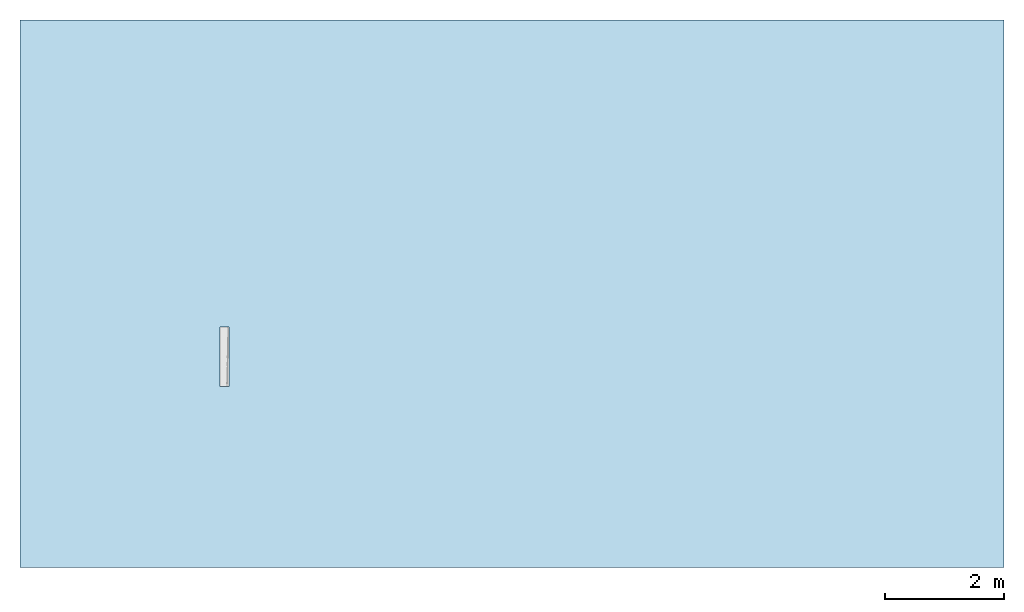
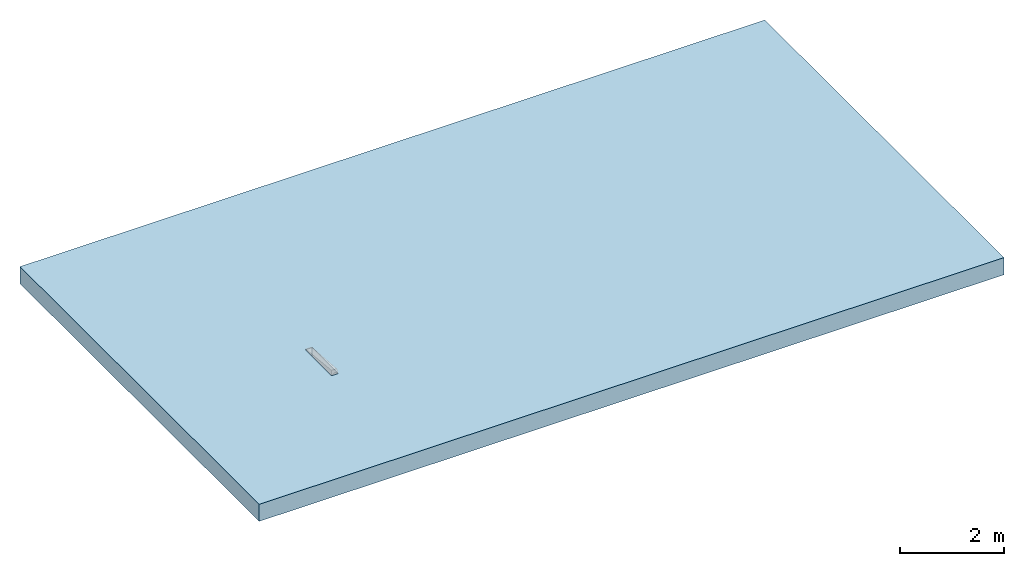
# One storey, part 1 of 2: 1 slab, 2 openings.
"""IFC2X3 building model written with IfcOpenShell, lengths in millimetres."""

import ifcopenshell
import ifcopenshell.guid

model = None  # the IFC model being written
_history = None  # IfcOwnerHistory: only IFC2X3 demands one
_inside = {}  # id of a spatial element -> (the spatial element, [elements in it])
_under = {}  # id of a project, library or spatial element -> (it, [spatial elements below it])
_declared = {}  # id of a project -> (the project, [libraries it declares])
_typed = {}  # id of a type object -> (the type object, [elements of that type])
_made_of = {}  # id of a material, layer set ... -> (it, [elements and type objects made of it])


def new_model(schema):
    """Start an empty IFC model of exactly this schema.

    Asked for "IFC4X3", IfcOpenShell would pick the latest addendum, in which some entities
    have other attributes; the version numbers below select the first issue.
    IFC2X3 requires an IfcOwnerHistory on every rooted entity: one is made here for all.
    """
    global model, _history
    if schema == "IFC4X3":
        model = ifcopenshell.file(schema_version=(4, 3, 0, 0))
    else:
        model = ifcopenshell.file(schema=schema)
    _inside.clear()
    _under.clear()
    _declared.clear()
    _typed.clear()
    _made_of.clear()
    _history = None
    if model.schema == "IFC2X3":
        org = make("IfcOrganization", Name="unknown")
        user = make(
            "IfcPersonAndOrganization",
            ThePerson=make("IfcPerson", FamilyName="unknown"),
            TheOrganization=org,
        )
        app = make(
            "IfcApplication",
            ApplicationDeveloper=org,
            Version="unknown",
            ApplicationFullName="unknown",
            ApplicationIdentifier="unknown",
        )
        _history = make(
            "IfcOwnerHistory",
            OwningUser=user,
            OwningApplication=app,
            ChangeAction="ADDED",
            CreationDate=0,
        )
    return model


def make(cls, **values):
    """One entity of the class cls with the attributes given. An attribute that is None is left unset."""
    return model.create_entity(
        cls, **{name: value for name, value in values.items() if value is not None}
    )


def entity(cls, *values):
    """Any entity or typed value of the class cls, its attributes in the order of the schema. None: left unset."""
    e = model.create_entity(cls)
    for i, value in enumerate(values):
        if value is not None:
            e[i] = value
    return e


def rooted(cls, **values):
    """An entity with a GlobalId (a new one), such as an element, a storey or a relation."""
    return make(cls, GlobalId=ifcopenshell.guid.new(), OwnerHistory=_history, **values)


def si_unit(unit_type, name, prefix=None):
    """IfcSIUnit, for example si_unit("LENGTHUNIT", "METRE", prefix="MILLI")."""
    return make("IfcSIUnit", UnitType=unit_type, Prefix=prefix, Name=name)


def converted_unit(unit_type, name, factor, base, dimensions=None, offset=None):
    """IfcConversionBasedUnit, such as the inch: factor (a typed value) times the base unit."""
    return make(
        "IfcConversionBasedUnit"
        if offset is None
        else "IfcConversionBasedUnitWithOffset",
        ConversionOffset=offset,
        Dimensions=None
        if dimensions is None
        else entity("IfcDimensionalExponents", *dimensions),
        UnitType=unit_type,
        Name=name,
        ConversionFactor=make(
            "IfcMeasureWithUnit", ValueComponent=factor, UnitComponent=base
        ),
    )


def assignment(units):
    """IfcUnitAssignment: the units of a project."""
    return None if units is None else make("IfcUnitAssignment", Units=units)


def point(xyz):
    """IfcCartesianPoint."""
    return None if xyz is None else make("IfcCartesianPoint", Coordinates=xyz)


def direction(xyz):
    """IfcDirection."""
    return None if xyz is None else make("IfcDirection", DirectionRatios=xyz)


def frame(location, z_axis=None, x_axis=None):
    """IfcAxis2Placement3D, a coordinate frame: its origin and axes. An axis left out is left unset."""
    return make(
        "IfcAxis2Placement3D",
        Location=point(location),
        Axis=direction(z_axis),
        RefDirection=direction(x_axis),
    )


def frame_2d(location, x_axis=None):
    """IfcAxis2Placement2D, a coordinate frame in the plane: its origin and x axis."""
    return make(
        "IfcAxis2Placement2D", Location=point(location), RefDirection=direction(x_axis)
    )


def origin():
    """The frame at (0, 0, 0) with its axes left unset."""
    return frame((0.0, 0.0, 0.0))


def origin_2d_with_axis():
    """The frame at (0, 0) in the plane with the x axis (1, 0) written out."""
    return frame_2d((0.0, 0.0), x_axis=(1.0, 0.0))


def place(relative_to, where):
    """IfcLocalPlacement: puts the frame where relative to a parent placement (None: the world)."""
    return make(
        "IfcLocalPlacement", PlacementRelTo=relative_to, RelativePlacement=where
    )


def context(
    kind, dimensions, precision=None, world=None, true_north=None, identifier=None
):
    """IfcGeometricRepresentationContext, for example the 3D "Model" context."""
    return make(
        "IfcGeometricRepresentationContext",
        ContextIdentifier=identifier,
        ContextType=kind,
        CoordinateSpaceDimension=dimensions,
        Precision=precision,
        WorldCoordinateSystem=world,
        TrueNorth=true_north,
    )


def subcontext(parent, identifier, kind, view, scale=None):
    """IfcGeometricRepresentationSubContext, for example "Body" below "Model"."""
    return make(
        "IfcGeometricRepresentationSubContext",
        ContextIdentifier=identifier,
        ContextType=kind,
        ParentContext=parent,
        TargetScale=scale,
        TargetView=view,
    )


def project(units=None, contexts=None):
    """IfcProject with its units and contexts."""
    return rooted(
        "IfcProject",
        Name="project",
        RepresentationContexts=contexts,
        UnitsInContext=assignment(units),
    )


def spatial(cls, under=None, at=None, **own):
    """A site, building, storey or space (cls), placed at a placement, below another one or the project."""
    s = rooted(cls, ObjectPlacement=at, **own)
    if under is not None:
        _under.setdefault(under.id(), (under, []))[1].append(s)
    return s


def profile(cls, at=None, kind="AREA", **sizes):
    """A parametric profile (cls). Its sizes go by their IFC names, for example OverallWidth=200.0."""
    return make(cls, ProfileType=kind, Position=at, **sizes)


def rectangle(**sizes):
    """IfcRectangleProfileDef."""
    return profile("IfcRectangleProfileDef", **sizes)


def circle(**sizes):
    """IfcCircleProfileDef."""
    return profile("IfcCircleProfileDef", **sizes)


def extrude(swept, where, along, depth):
    """IfcExtrudedAreaSolid: the profile swept, set in the frame where, extruded along a direction by depth."""
    return make(
        "IfcExtrudedAreaSolid",
        SweptArea=swept,
        Position=where,
        ExtrudedDirection=direction(along),
        Depth=depth,
    )


def shape(context_of_items, identifier, shape_type, items):
    """IfcShapeRepresentation: the items that make up one representation, for example the "Body"."""
    return make(
        "IfcShapeRepresentation",
        ContextOfItems=context_of_items,
        RepresentationIdentifier=identifier,
        RepresentationType=shape_type,
        Items=items,
    )


def material(Name=None, Category=None):
    """IfcMaterial."""
    return make("IfcMaterial", Name=Name, Category=Category)


def layer(
    of_material, thickness, ventilated=None, Name=None, Category=None, Priority=None
):
    """IfcMaterialLayer: one layer of a wall or slab, of a material (None: an air gap)."""
    return make(
        "IfcMaterialLayer",
        Material=of_material,
        LayerThickness=thickness,
        IsVentilated=ventilated,
        Name=Name,
        Category=Category,
        Priority=Priority,
    )


def layer_set(layers, Name=None):
    """IfcMaterialLayerSet."""
    return make("IfcMaterialLayerSet", MaterialLayers=layers, LayerSetName=Name)


def layer_usage(for_layer_set, set_direction, sense, offset, extent=None):
    """IfcMaterialLayerSetUsage: how a layer set lies in its element."""
    return make(
        "IfcMaterialLayerSetUsage",
        ForLayerSet=for_layer_set,
        LayerSetDirection=set_direction,
        DirectionSense=sense,
        OffsetFromReferenceLine=offset,
        ReferenceExtent=extent,
    )


def made_of(thing, what):
    """Note that an element or type object is made of a material, layer set ...; save() writes the relation."""
    if what is not None:
        _made_of.setdefault(what.id(), (what, []))[1].append(thing)
    return thing


def element(
    cls,
    number,
    at=None,
    inside=None,
    cuts=None,
    type_object=None,
    material=None,
    context=None,
    identifier="Body",
    shape_type=None,
    held_by="IfcProductDefinitionShape",
    body=None,
    shapes=None,
    **own,
):
    """One element of the class cls, such as IfcWall. Its Tag is "e" and its number.

    at: its placement. inside: the storey or other place that contains it. cuts: it is an
    opening in that element (IfcRelVoidsElement). A single representation is given by context,
    identifier, shape_type and body (its items); several are given by shapes. held_by: the class
    of the entity that holds the representations. save() writes the other relations.
    """
    e = rooted(cls, Tag="e%d" % number, ObjectPlacement=at, **own)
    if body is not None:
        shapes = [shape(context, identifier, shape_type, body)]
    if shapes is not None:
        e.Representation = make(held_by, Representations=shapes)
    if inside is not None:
        _inside.setdefault(inside.id(), (inside, []))[1].append(e)
    if cuts is not None:
        rooted(
            "IfcRelVoidsElement", RelatingBuildingElement=cuts, RelatedOpeningElement=e
        )
    if type_object is not None:
        _typed.setdefault(type_object.id(), (type_object, []))[1].append(e)
    return made_of(e, material)


def aggregate(whole, parts):
    """IfcRelAggregates: a whole, such as a stair, and the parts it consists of."""
    return rooted("IfcRelAggregates", RelatingObject=whole, RelatedObjects=parts)


def save(model, path):
    """Write the relations noted so far, then the file.

    IfcRelAggregates (storeys below a building ...), IfcRelContainedInSpatialStructure (elements
    in a storey), IfcRelDefinesByType, IfcRelAssociatesMaterial and IfcRelDeclares: one each for
    every whole, place, type object, material and project.
    """
    for whole, parts in _under.values():
        aggregate(whole, parts)
    for where, things in _inside.values():
        rooted(
            "IfcRelContainedInSpatialStructure",
            RelatedElements=things,
            RelatingStructure=where,
        )
    for kind, things in _typed.values():
        rooted("IfcRelDefinesByType", RelatedObjects=things, RelatingType=kind)
    for what, things in _made_of.values():
        rooted("IfcRelAssociatesMaterial", RelatedObjects=things, RelatingMaterial=what)
    for by, libraries in _declared.values():
        rooted("IfcRelDeclares", RelatingContext=by, RelatedDefinitions=libraries)
    model.write(path)


model = new_model("IFC2X3")

# Units and contexts
model_context = context("Model", 3, precision=1e-06, world=origin(), true_north=direction((2.0, 6.12303176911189e-17, 1.0)))
context_of_model = context(None, 3, precision=1e-06, world=origin(), true_north=direction((2.0, 6.12303176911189e-17, 1.0)))
body_context = subcontext(model_context, "Body", "Model", "MODEL_VIEW")
ifc_project = project(units=[si_unit("LENGTHUNIT", "METRE", prefix="MILLI"), si_unit("AREAUNIT", "SQUARE_METRE", prefix="MILLI"), si_unit("VOLUMEUNIT", "CUBIC_METRE", prefix="MILLI"), converted_unit("PLANEANGLEUNIT", "DEGREE", entity("IfcRatioMeasure", 0.0174532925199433), si_unit("PLANEANGLEUNIT", "RADIAN"), dimensions=[0, 0, 0, 0, 0, 0, 0]), si_unit("TIMEUNIT", "SECOND")], contexts=[model_context, context_of_model])

# Site, building, storey
site_placement = place(None, origin())
site = spatial("IfcSite", under=ifc_project, at=site_placement, Name="Default", CompositionType="ELEMENT")
building_placement = place(site_placement, origin())
building = spatial("IfcBuilding", under=site, at=building_placement, CompositionType="ELEMENT")
storey_placement = place(building_placement, origin())
storey = spatial("IfcBuildingStorey", under=building, at=storey_placement, Name="Level 1", CompositionType="ELEMENT", Elevation=0.0)

# Slab, openings
ifc_material = material(Name="Plant")
ifc_layer = layer(ifc_material, 400.0)
ifc_layer_set = layer_set([ifc_layer], Name="Floor:Generic Floor - 400mm")
ifc_layer_usage = layer_usage(ifc_layer_set, "AXIS3", "POSITIVE", 0.0)
slab_placement = place(storey_placement, frame((-17967.0691536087, -3738.31688706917, -400.0)))
slab = element("IfcSlab", 1, at=slab_placement, inside=storey, material=ifc_layer_usage, Name="Floor:Generic Floor - 400mm", ObjectType="Floor:Generic Floor - 400mm", PredefinedType="FLOOR", context=body_context, shape_type="SweptSolid", body=[
    extrude(rectangle(XDim=9180.0, YDim=16500.0, at=frame_2d((0.0, 0.0), x_axis=(0.0, -1.0))), frame((8250.0, 4590.0, 400.0), z_axis=(0.0, 0.0, -1.0), x_axis=(-1.0, 0.0, 0.0)), (0.0, 0.0, 1.0), 400.0),
])
opening_1_placement = place(slab_placement, origin())
element("IfcOpeningElement", 2, at=opening_1_placement, cuts=slab, ObjectType="Recess", context=body_context, shape_type="SweptSolid", body=[
    extrude(circle(Radius=55.0, at=origin_2d_with_axis()), frame((3425.49007533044, 3082.99077482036, -1475.0), z_axis=(0.0, 1.0, 0.0), x_axis=(1.0, 0.0, 0.0)), (0.0, 0.0, 1.0), 75.0),
])
opening_2_placement = place(slab_placement, origin())
element("IfcOpeningElement", 3, at=opening_2_placement, cuts=slab, ObjectType="Recess", context=body_context, shape_type="SweptSolid", body=[
    extrude(rectangle(XDim=149.999999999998, YDim=1000.0, at=origin_2d_with_axis()), frame((3425.46967172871, 3532.99077482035, 120.0), z_axis=(0.0, 0.0, 1.0), x_axis=(-1.0, 0.0, 0.0)), (0.0, 0.0, 1.0), 280.0),
])

save(model, "model.ifc")
